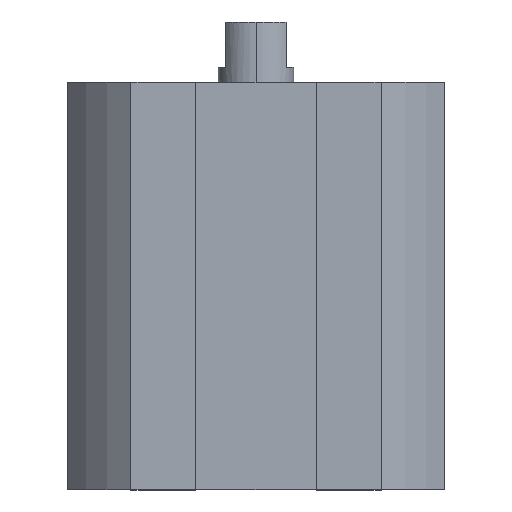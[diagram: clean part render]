
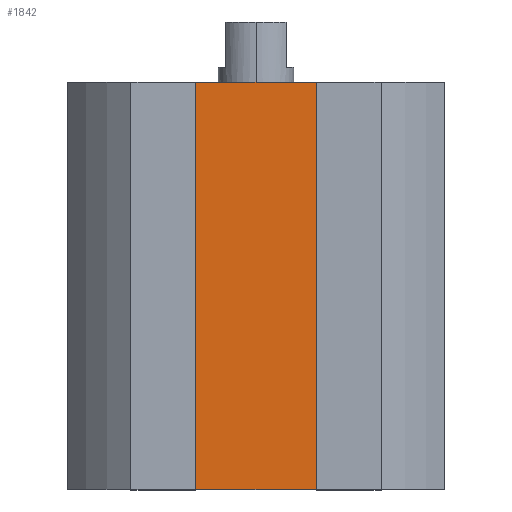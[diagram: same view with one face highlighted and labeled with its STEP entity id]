
A CAD part, top view. The second image highlights one B-rep face of the part: STEP entity #1842.
In plain terms, the highlighted planar face has unit normal (0, 0, 1).
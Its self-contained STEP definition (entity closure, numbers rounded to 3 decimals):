
#179 = ORIENTED_EDGE ( 'NONE', *, *, #802, .F. ) ;
#216 = EDGE_CURVE ( 'NONE', #1229, #486, #2002, .T. ) ;
#218 = LINE ( 'NONE', #1764, #461 ) ;
#306 = CARTESIAN_POINT ( 'NONE',  ( 4., -27., 7.8 ) ) ;
#329 = VECTOR ( 'NONE', #402, 1000. ) ;
#378 = CARTESIAN_POINT ( 'NONE',  ( -4., -27., 7.8 ) ) ;
#402 = DIRECTION ( 'NONE',  ( 1., 0., 0. ) ) ;
#461 = VECTOR ( 'NONE', #2112, 1000. ) ;
#486 = VERTEX_POINT ( 'NONE', #1648 ) ;
#512 = AXIS2_PLACEMENT_3D ( 'NONE', #1219, #1038, #1381 ) ;
#522 = ORIENTED_EDGE ( 'NONE', *, *, #2130, .T. ) ;
#527 = LINE ( 'NONE', #306, #1428 ) ;
#542 = VERTEX_POINT ( 'NONE', #824 ) ;
#802 = EDGE_CURVE ( 'NONE', #1152, #542, #2132, .T. ) ;
#824 = CARTESIAN_POINT ( 'NONE',  ( 4., 0., 7.8 ) ) ;
#872 = ORIENTED_EDGE ( 'NONE', *, *, #1366, .F. ) ;
#1038 = DIRECTION ( 'NONE',  ( 0., 0., 1. ) ) ;
#1152 = VERTEX_POINT ( 'NONE', #1358 ) ;
#1219 = CARTESIAN_POINT ( 'NONE',  ( 0., -27., 7.8 ) ) ;
#1229 = VERTEX_POINT ( 'NONE', #378 ) ;
#1256 = VECTOR ( 'NONE', #1827, 1000. ) ;
#1358 = CARTESIAN_POINT ( 'NONE',  ( -4., 0., 7.8 ) ) ;
#1366 = EDGE_CURVE ( 'NONE', #1229, #1152, #218, .T. ) ;
#1381 = DIRECTION ( 'NONE',  ( 1., 0., 0. ) ) ;
#1428 = VECTOR ( 'NONE', #2036, 1000. ) ;
#1494 = CARTESIAN_POINT ( 'NONE',  ( 0., -27., 7.8 ) ) ;
#1520 = ORIENTED_EDGE ( 'NONE', *, *, #216, .T. ) ;
#1539 = PLANE ( 'NONE',  #512 ) ;
#1648 = CARTESIAN_POINT ( 'NONE',  ( 4., -27., 7.8 ) ) ;
#1764 = CARTESIAN_POINT ( 'NONE',  ( -4., -27., 7.8 ) ) ;
#1803 = EDGE_LOOP ( 'NONE', ( #179, #872, #1520, #522 ) ) ;
#1827 = DIRECTION ( 'NONE',  ( 1., 0., 0. ) ) ;
#1842 = ADVANCED_FACE ( 'NONE', ( #2088 ), #1539, .T. ) ;
#2002 = LINE ( 'NONE', #1494, #1256 ) ;
#2036 = DIRECTION ( 'NONE',  ( 0., 1., 0. ) ) ;
#2088 = FACE_OUTER_BOUND ( 'NONE', #1803, .T. ) ;
#2098 = CARTESIAN_POINT ( 'NONE',  ( 0., 0., 7.8 ) ) ;
#2112 = DIRECTION ( 'NONE',  ( 0., 1., 0. ) ) ;
#2130 = EDGE_CURVE ( 'NONE', #486, #542, #527, .T. ) ;
#2132 = LINE ( 'NONE', #2098, #329 ) ;
